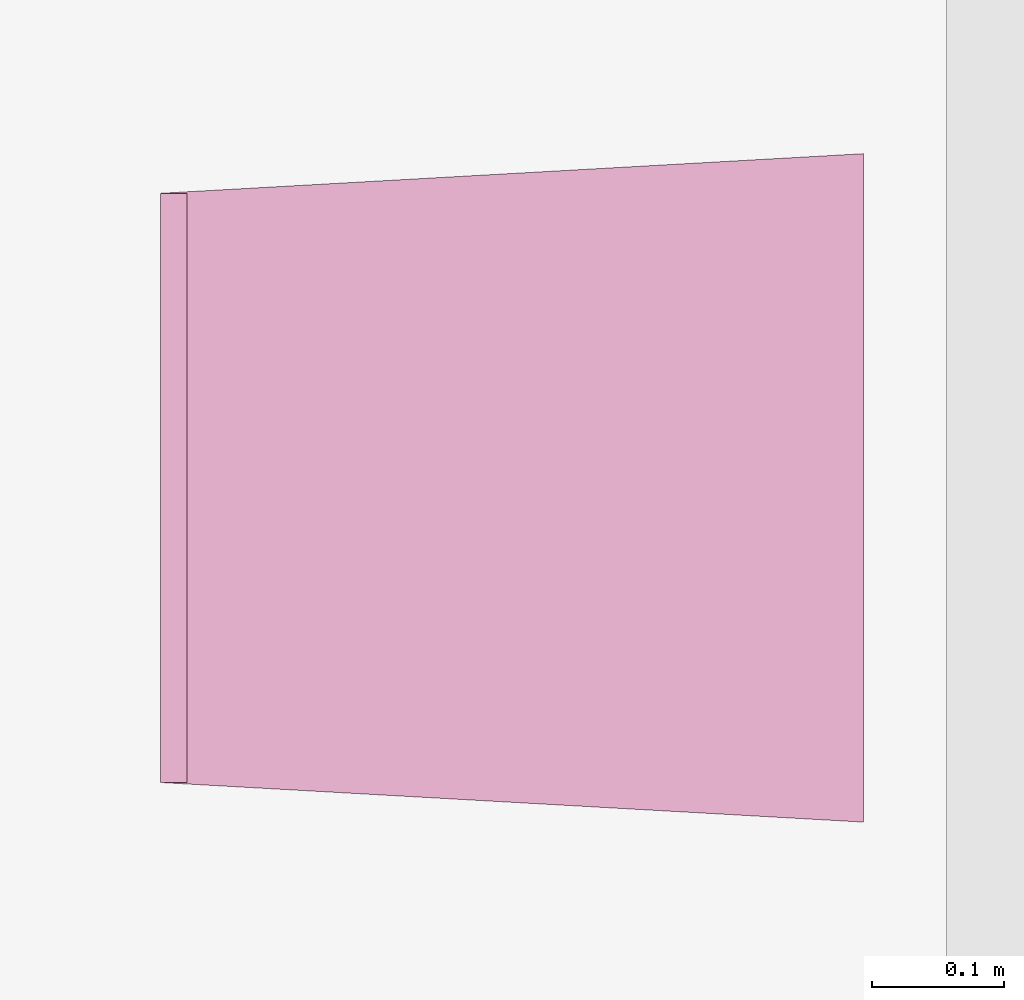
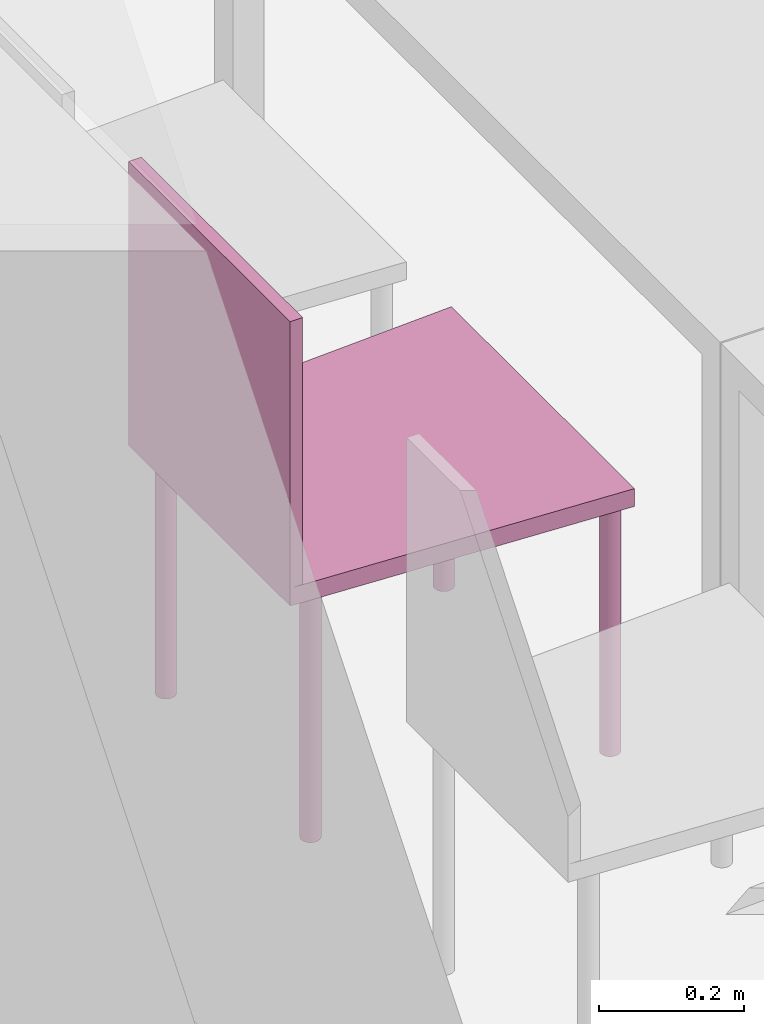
"""IFC4 building model written with IfcOpenShell, lengths in metres."""

from ifc_helpers import new_model, entity, si_unit, converted_unit, derived_unit, frame, origin, place, context, subcontext, project, spatial, faceted_brep, element, save


model = new_model("IFC4")

# Units and contexts
model_context = context("Model", 3, precision=1e-05, world=origin())
body_context = subcontext(model_context, "Body", "Model", "MODEL_VIEW")
ifc_project = project(units=[si_unit("LENGTHUNIT", "METRE"), si_unit("AREAUNIT", "SQUARE_METRE"), si_unit("VOLUMEUNIT", "CUBIC_METRE"), si_unit("MASSUNIT", "GRAM", prefix="KILO"), converted_unit("PLANEANGLEUNIT", "DEGREE", entity("IfcPlaneAngleMeasure", 0.0174532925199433), si_unit("PLANEANGLEUNIT", "RADIAN"), dimensions=[0, 0, 0, 0, 0, 0, 0]), derived_unit("THERMALTRANSMITTANCEUNIT", [(si_unit("POWERUNIT", "WATT"), 1), (si_unit("THERMODYNAMICTEMPERATUREUNIT", "KELVIN"), -1), (si_unit("LENGTHUNIT", "METRE"), -2)]), derived_unit("VOLUMETRICFLOWRATEUNIT", [(si_unit("LENGTHUNIT", "METRE"), 3), (converted_unit("TIMEUNIT", "hour", entity("IfcTimeMeasure", 3600.0), si_unit("TIMEUNIT", "SECOND"), dimensions=[0, 0, 1, 0, 0, 0, 0]), -1), (si_unit("LENGTHUNIT", "METRE"), -1)])], contexts=[model_context])

# Building, storeys
building_placement = place(None, origin())
building = spatial("IfcBuilding", under=ifc_project, at=building_placement, Name="HABITATGE PLURIFAMILIAR", CompositionType="ELEMENT")
storey_1_placement = place(building_placement, frame((0.0, 0.0, 3.35)))
storey_1 = spatial("IfcBuildingStorey", under=building, at=storey_1_placement, Name="PLANTA  ALTELL", CompositionType="ELEMENT", Elevation=3.35)
storey_2_placement = place(storey_1_placement, origin())
storey_2 = spatial("IfcBuildingStorey", under=storey_1, at=storey_2_placement, Name="NOU", CompositionType="PARTIAL")

# Furniture
furniture_placement = place(storey_2_placement, frame((399.386206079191, 15.6892329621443, 0.0499839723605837)))
element("IfcFurniture", 1, at=furniture_placement, inside=storey_2, Name="Cadira confident_PA", context=body_context, shape_type="Brep", body=[
    faceted_brep([(0.507575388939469, 0.0391636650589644, 0.0), (0.504980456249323, 0.0389479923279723, 0.0), (0.502462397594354, 0.0382849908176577, 0.0), (0.500097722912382, 0.0371948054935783, 0.0), (0.497958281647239, 0.0357105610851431, 0.0), (0.496109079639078, 0.0338773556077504, 0.0), (0.494606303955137, 0.0317508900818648, 0.0), (0.493495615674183, 0.0293957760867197, 0.0), (0.492810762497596, 0.0268835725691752, 0.0), (0.492572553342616, 0.0242906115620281, 0.0), (0.492788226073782, 0.0216956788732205, 0.0), (0.493451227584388, 0.019177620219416, 0.0), (0.494541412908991, 0.0168129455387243, 0.0), (0.496025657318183, 0.0146735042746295, 0.0), (0.497858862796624, 0.0128243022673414, 0.0), (0.499985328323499, 0.0113215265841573, 0.0), (0.502340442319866, 0.0102108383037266, 0.0), (0.504852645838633, 0.00952598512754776, 0.0), (0.507445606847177, 0.00928777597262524, 0.0), (0.510040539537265, 0.00950344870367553, 0.0), (0.512558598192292, 0.010166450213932, 0.0), (0.514923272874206, 0.0112566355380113, 0.0), (0.517062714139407, 0.0127408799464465, 0.0), (0.518911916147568, 0.0145740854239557, 0.0), (0.520414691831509, 0.0167005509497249, 0.0), (0.521525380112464, 0.0190556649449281, 0.0), (0.52221023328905, 0.0215678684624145, 0.0), (0.522448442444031, 0.0241608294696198, 0.0), (0.522232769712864, 0.0267557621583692, 0.0), (0.521569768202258, 0.0292738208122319, 0.0), (0.520479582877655, 0.0316384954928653, 0.0), (0.518995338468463, 0.0337779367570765, 0.0), (0.517162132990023, 0.0356271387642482, 0.0), (0.515035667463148, 0.0371299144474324, 0.0), (0.51268055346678, 0.038240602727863, 0.0), (0.510168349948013, 0.0389254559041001, 0.0), (0.507575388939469, 0.0391636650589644, 0.448281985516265), (0.510168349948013, 0.0389254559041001, 0.448281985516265), (0.51268055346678, 0.038240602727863, 0.448281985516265), (0.515035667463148, 0.0371299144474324, 0.448281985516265), (0.517162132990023, 0.0356271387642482, 0.448281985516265), (0.518995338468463, 0.0337779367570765, 0.448281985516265), (0.520479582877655, 0.0316384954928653, 0.448281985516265), (0.521569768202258, 0.0292738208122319, 0.448281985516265), (0.522232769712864, 0.0267557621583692, 0.448281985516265), (0.522448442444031, 0.0241608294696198, 0.448281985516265), (0.52221023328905, 0.0215678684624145, 0.448281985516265), (0.521525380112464, 0.0190556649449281, 0.448281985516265), (0.520414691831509, 0.0167005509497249, 0.448281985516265), (0.518911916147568, 0.0145740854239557, 0.448281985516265), (0.517062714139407, 0.0127408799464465, 0.448281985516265), (0.514923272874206, 0.0112566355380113, 0.448281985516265), (0.512558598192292, 0.010166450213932, 0.448281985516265), (0.510040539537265, 0.00950344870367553, 0.448281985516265), (0.507445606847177, 0.00928777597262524, 0.448281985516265), (0.504852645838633, 0.00952598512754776, 0.448281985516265), (0.502340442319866, 0.0102108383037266, 0.448281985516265), (0.499985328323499, 0.0113215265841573, 0.448281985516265), (0.497858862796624, 0.0128243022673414, 0.448281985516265), (0.496025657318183, 0.0146735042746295, 0.448281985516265), (0.494541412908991, 0.0168129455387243, 0.448281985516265), (0.493451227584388, 0.019177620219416, 0.448281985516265), (0.492788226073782, 0.0216956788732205, 0.448281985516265), (0.492572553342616, 0.0242906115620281, 0.448281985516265), (0.492810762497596, 0.0268835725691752, 0.448281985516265), (0.493495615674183, 0.0293957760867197, 0.448281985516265), (0.494606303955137, 0.0317508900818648, 0.448281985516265), (0.496109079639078, 0.0338773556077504, 0.448281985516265), (0.497958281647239, 0.0357105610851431, 0.448281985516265), (0.500097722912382, 0.0371948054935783, 0.448281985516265), (0.502462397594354, 0.0382849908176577, 0.448281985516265), (0.504980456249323, 0.0389479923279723, 0.448281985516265)], [[[0, 1, 2, 3, 4, 5, 6, 7, 8, 9, 10, 11, 12, 13, 14, 15, 16, 17, 18, 19, 20, 21, 22, 23, 24, 25, 26, 27, 28, 29, 30, 31, 32, 33, 34, 35]], [[36, 37, 38, 39, 40, 41, 42, 43, 44, 45, 46, 47, 48, 49, 50, 51, 52, 53, 54, 55, 56, 57, 58, 59, 60, 61, 62, 63, 64, 65, 66, 67, 68, 69, 70, 71]], [[1, 0, 36, 71]], [[2, 1, 71, 70]], [[3, 2, 70, 69]], [[4, 3, 69, 68]], [[5, 4, 68, 67]], [[6, 5, 67, 66]], [[7, 6, 66, 65]], [[8, 7, 65, 64]], [[9, 8, 64, 63]], [[10, 9, 63, 62]], [[11, 10, 62, 61]], [[12, 11, 61, 60]], [[13, 12, 60, 59]], [[14, 13, 59, 58]], [[15, 14, 58, 57]], [[16, 15, 57, 56]], [[17, 16, 56, 55]], [[18, 17, 55, 54]], [[19, 18, 54, 53]], [[20, 19, 53, 52]], [[21, 20, 52, 51]], [[22, 21, 51, 50]], [[23, 22, 50, 49]], [[24, 23, 49, 48]], [[25, 24, 48, 47]], [[26, 25, 47, 46]], [[27, 26, 46, 45]], [[28, 27, 45, 44]], [[29, 28, 44, 43]], [[30, 29, 43, 42]], [[31, 30, 42, 41]], [[32, 31, 41, 40]], [[33, 32, 40, 39]], [[34, 33, 39, 38]], [[35, 34, 38, 37]], [[0, 35, 37, 36]]], orient=[[False], [False], [False], [False], [False], [False], [False], [False], [False], [False], [False], [False], [False], [False], [False], [False], [False], [False], [False], [False], [False], [False], [False], [False], [False], [False], [False], [False], [False], [False], [False], [False], [False], [False], [False], [False], [False], [False]]),
    faceted_brep([(0.0451683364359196, 0.0668016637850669, 0.0), (0.0425734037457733, 0.0665859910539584, 0.0), (0.0400553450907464, 0.065922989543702, 0.0), (0.0376906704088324, 0.0648328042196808, 0.0), (0.0355512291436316, 0.0633485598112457, 0.0), (0.0337020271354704, 0.0615153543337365, 0.0), (0.0321992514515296, 0.0593888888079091, 0.0), (0.0310885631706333, 0.057033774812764, 0.0), (0.0304037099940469, 0.0545215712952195, 0.0), (0.030165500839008, 0.0519286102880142, 0.0), (0.0303811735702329, 0.0493336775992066, 0.0), (0.0310441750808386, 0.0468156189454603, 0.0), (0.0321343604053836, 0.0444509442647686, 0.0), (0.0336186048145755, 0.0423115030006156, 0.0), (0.035451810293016, 0.0404623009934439, 0.0), (0.0375782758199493, 0.0389595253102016, 0.0), (0.0399333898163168, 0.0378488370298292, 0.0), (0.0424455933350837, 0.0371639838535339, 0.0), (0.0450385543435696, 0.0369257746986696, 0.0), (0.0476334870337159, 0.0371414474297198, 0.0), (0.0501515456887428, 0.0378044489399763, 0.0), (0.0525162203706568, 0.0388946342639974, 0.0), (0.0546556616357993, 0.0403788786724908, 0.0), (0.0565048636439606, 0.0422120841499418, 0.0), (0.0580076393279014, 0.0443385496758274, 0.0), (0.0591183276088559, 0.0466936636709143, 0.0), (0.0598031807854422, 0.0492058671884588, 0.0), (0.060041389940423, 0.0517988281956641, 0.0), (0.0598257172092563, 0.0543937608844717, 0.0), (0.0591627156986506, 0.056911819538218, 0.0), (0.0580725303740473, 0.0592764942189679, 0.0), (0.0565882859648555, 0.0614159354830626, 0.0), (0.054755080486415, 0.0632651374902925, 0.0), (0.0526286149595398, 0.0647679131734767, 0.0), (0.0502735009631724, 0.0658786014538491, 0.0), (0.0477612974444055, 0.0665634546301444, 0.0), (0.0451683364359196, 0.0668016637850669, 0.448281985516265), (0.0477612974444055, 0.0665634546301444, 0.448281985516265), (0.0502735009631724, 0.0658786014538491, 0.448281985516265), (0.0526286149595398, 0.0647679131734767, 0.448281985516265), (0.054755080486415, 0.0632651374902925, 0.448281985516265), (0.0565882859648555, 0.0614159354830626, 0.448281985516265), (0.0580725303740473, 0.0592764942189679, 0.448281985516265), (0.0591627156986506, 0.056911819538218, 0.448281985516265), (0.0598257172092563, 0.0543937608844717, 0.448281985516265), (0.060041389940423, 0.0517988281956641, 0.448281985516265), (0.0598031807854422, 0.0492058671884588, 0.448281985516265), (0.0591183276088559, 0.0466936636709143, 0.448281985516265), (0.0580076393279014, 0.0443385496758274, 0.448281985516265), (0.0565048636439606, 0.0422120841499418, 0.448281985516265), (0.0546556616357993, 0.0403788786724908, 0.448281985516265), (0.0525162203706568, 0.0388946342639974, 0.448281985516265), (0.0501515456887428, 0.0378044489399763, 0.448281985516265), (0.0476334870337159, 0.0371414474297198, 0.448281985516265), (0.0450385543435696, 0.0369257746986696, 0.448281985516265), (0.0424455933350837, 0.0371639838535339, 0.448281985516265), (0.0399333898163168, 0.0378488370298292, 0.448281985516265), (0.0375782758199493, 0.0389595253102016, 0.448281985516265), (0.035451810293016, 0.0404623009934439, 0.448281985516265), (0.0336186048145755, 0.0423115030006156, 0.448281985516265), (0.0321343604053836, 0.0444509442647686, 0.448281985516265), (0.0310441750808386, 0.0468156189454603, 0.448281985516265), (0.0303811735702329, 0.0493336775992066, 0.448281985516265), (0.030165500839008, 0.0519286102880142, 0.448281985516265), (0.0304037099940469, 0.0545215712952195, 0.448281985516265), (0.0310885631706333, 0.057033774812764, 0.448281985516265), (0.0321992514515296, 0.0593888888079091, 0.448281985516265), (0.0337020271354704, 0.0615153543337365, 0.448281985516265), (0.0355512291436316, 0.0633485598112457, 0.448281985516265), (0.0376906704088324, 0.0648328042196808, 0.448281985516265), (0.0400553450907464, 0.065922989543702, 0.448281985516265), (0.0425734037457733, 0.0665859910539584, 0.448281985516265)], [[[0, 1, 2, 3, 4, 5, 6, 7, 8, 9, 10, 11, 12, 13, 14, 15, 16, 17, 18, 19, 20, 21, 22, 23, 24, 25, 26, 27, 28, 29, 30, 31, 32, 33, 34, 35]], [[36, 37, 38, 39, 40, 41, 42, 43, 44, 45, 46, 47, 48, 49, 50, 51, 52, 53, 54, 55, 56, 57, 58, 59, 60, 61, 62, 63, 64, 65, 66, 67, 68, 69, 70, 71]], [[1, 0, 36, 71]], [[2, 1, 71, 70]], [[3, 2, 70, 69]], [[4, 3, 69, 68]], [[5, 4, 68, 67]], [[6, 5, 67, 66]], [[7, 6, 66, 65]], [[8, 7, 65, 64]], [[9, 8, 64, 63]], [[10, 9, 63, 62]], [[11, 10, 62, 61]], [[12, 11, 61, 60]], [[13, 12, 60, 59]], [[14, 13, 59, 58]], [[15, 14, 58, 57]], [[16, 15, 57, 56]], [[17, 16, 56, 55]], [[18, 17, 55, 54]], [[19, 18, 54, 53]], [[20, 19, 53, 52]], [[21, 20, 52, 51]], [[22, 21, 51, 50]], [[23, 22, 50, 49]], [[24, 23, 49, 48]], [[25, 24, 48, 47]], [[26, 25, 47, 46]], [[27, 26, 46, 45]], [[28, 27, 45, 44]], [[29, 28, 44, 43]], [[30, 29, 43, 42]], [[31, 30, 42, 41]], [[32, 31, 41, 40]], [[33, 32, 40, 39]], [[34, 33, 39, 38]], [[35, 34, 38, 37]], [[0, 35, 37, 36]]], orient=[[False], [False], [False], [False], [False], [False], [False], [False], [False], [False], [False], [False], [False], [False], [False], [False], [False], [False], [False], [False], [False], [False], [False], [False], [False], [False], [False], [False], [False], [False], [False], [False], [False], [False], [False], [False], [False], [False]]),
    faceted_brep([(0.50757538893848, 0.499163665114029, 0.0), (0.504980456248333, 0.49894799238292, 0.0), (0.502462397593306, 0.498284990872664, 0.0), (0.500097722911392, 0.497194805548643, 0.0), (0.49795828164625, 0.495710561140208, 0.0), (0.49610907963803, 0.493877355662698, 0.0), (0.494606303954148, 0.491750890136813, 0.0), (0.493495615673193, 0.489395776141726, 0.0), (0.492810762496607, 0.486883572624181, 0.0), (0.492572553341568, 0.484290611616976, 0.0), (0.492788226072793, 0.481695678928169, 0.0), (0.493451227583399, 0.479177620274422, 0.0), (0.494541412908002, 0.476812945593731, 0.0), (0.496025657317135, 0.474673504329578, 0.0), (0.497858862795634, 0.472824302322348, 0.0), (0.499985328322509, 0.471321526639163, 0.0), (0.502340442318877, 0.470210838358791, 0.0), (0.504852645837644, 0.469525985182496, 0.0), (0.507445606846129, 0.469287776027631, 0.0), (0.510040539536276, 0.469503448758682, 0.0), (0.512558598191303, 0.470166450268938, 0.0), (0.514923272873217, 0.471256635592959, 0.0), (0.517062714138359, 0.472740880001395, 0.0), (0.518911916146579, 0.474574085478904, 0.0), (0.520414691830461, 0.476700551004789, 0.0), (0.521525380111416, 0.479055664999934, 0.0), (0.522210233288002, 0.481567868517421, 0.0), (0.522448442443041, 0.484160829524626, 0.0), (0.522232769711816, 0.486755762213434, 0.0), (0.521569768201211, 0.489273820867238, 0.0), (0.520479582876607, 0.491638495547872, 0.0), (0.518995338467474, 0.493777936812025, 0.0), (0.517162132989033, 0.495627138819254, 0.0), (0.5150356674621, 0.497129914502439, 0.0), (0.512680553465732, 0.498240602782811, 0.0), (0.510168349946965, 0.498925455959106, 0.0), (0.50757538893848, 0.499163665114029, 0.448281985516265), (0.510168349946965, 0.498925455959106, 0.448281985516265), (0.512680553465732, 0.498240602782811, 0.448281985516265), (0.5150356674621, 0.497129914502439, 0.448281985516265), (0.517162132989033, 0.495627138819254, 0.448281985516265), (0.518995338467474, 0.493777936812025, 0.448281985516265), (0.520479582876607, 0.491638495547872, 0.448281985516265), (0.521569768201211, 0.489273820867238, 0.448281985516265), (0.522232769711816, 0.486755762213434, 0.448281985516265), (0.522448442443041, 0.484160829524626, 0.448281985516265), (0.522210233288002, 0.481567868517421, 0.448281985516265), (0.521525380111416, 0.479055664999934, 0.448281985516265), (0.520414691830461, 0.476700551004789, 0.448281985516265), (0.518911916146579, 0.474574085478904, 0.448281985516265), (0.517062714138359, 0.472740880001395, 0.448281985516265), (0.514923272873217, 0.471256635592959, 0.448281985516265), (0.512558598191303, 0.470166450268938, 0.448281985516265), (0.510040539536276, 0.469503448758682, 0.448281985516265), (0.507445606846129, 0.469287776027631, 0.448281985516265), (0.504852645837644, 0.469525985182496, 0.448281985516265), (0.502340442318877, 0.470210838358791, 0.448281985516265), (0.499985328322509, 0.471321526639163, 0.448281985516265), (0.497858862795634, 0.472824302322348, 0.448281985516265), (0.496025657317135, 0.474673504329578, 0.448281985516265), (0.494541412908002, 0.476812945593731, 0.448281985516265), (0.493451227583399, 0.479177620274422, 0.448281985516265), (0.492788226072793, 0.481695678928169, 0.448281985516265), (0.492572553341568, 0.484290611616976, 0.448281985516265), (0.492810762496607, 0.486883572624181, 0.448281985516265), (0.493495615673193, 0.489395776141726, 0.448281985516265), (0.494606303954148, 0.491750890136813, 0.448281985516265), (0.49610907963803, 0.493877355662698, 0.448281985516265), (0.49795828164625, 0.495710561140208, 0.448281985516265), (0.500097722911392, 0.497194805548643, 0.448281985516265), (0.502462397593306, 0.498284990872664, 0.448281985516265), (0.504980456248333, 0.49894799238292, 0.448281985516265)], [[[0, 1, 2, 3, 4, 5, 6, 7, 8, 9, 10, 11, 12, 13, 14, 15, 16, 17, 18, 19, 20, 21, 22, 23, 24, 25, 26, 27, 28, 29, 30, 31, 32, 33, 34, 35]], [[36, 37, 38, 39, 40, 41, 42, 43, 44, 45, 46, 47, 48, 49, 50, 51, 52, 53, 54, 55, 56, 57, 58, 59, 60, 61, 62, 63, 64, 65, 66, 67, 68, 69, 70, 71]], [[1, 0, 36, 71]], [[2, 1, 71, 70]], [[3, 2, 70, 69]], [[4, 3, 69, 68]], [[5, 4, 68, 67]], [[6, 5, 67, 66]], [[7, 6, 66, 65]], [[8, 7, 65, 64]], [[9, 8, 64, 63]], [[10, 9, 63, 62]], [[11, 10, 62, 61]], [[12, 11, 61, 60]], [[13, 12, 60, 59]], [[14, 13, 59, 58]], [[15, 14, 58, 57]], [[16, 15, 57, 56]], [[17, 16, 56, 55]], [[18, 17, 55, 54]], [[19, 18, 54, 53]], [[20, 19, 53, 52]], [[21, 20, 52, 51]], [[22, 21, 51, 50]], [[23, 22, 50, 49]], [[24, 23, 49, 48]], [[25, 24, 48, 47]], [[26, 25, 47, 46]], [[27, 26, 46, 45]], [[28, 27, 45, 44]], [[29, 28, 44, 43]], [[30, 29, 43, 42]], [[31, 30, 42, 41]], [[32, 31, 41, 40]], [[33, 32, 40, 39]], [[34, 33, 39, 38]], [[35, 34, 38, 37]], [[0, 35, 37, 36]]], orient=[[False], [False], [False], [False], [False], [False], [False], [False], [False], [False], [False], [False], [False], [False], [False], [False], [False], [False], [False], [False], [False], [False], [False], [False], [False], [False], [False], [False], [False], [False], [False], [False], [False], [False], [False], [False], [False], [False]]),
    faceted_brep([(0.0451683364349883, 0.466801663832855, 0.0), (0.0425734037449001, 0.466585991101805, 0.0), (0.0400553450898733, 0.465922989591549, 0.0), (0.0376906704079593, 0.464832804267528, 0.0), (0.0355512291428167, 0.463348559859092, 0.0), (0.0337020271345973, 0.461515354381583, 0.0), (0.0321992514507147, 0.459388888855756, 0.0), (0.0310885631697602, 0.457033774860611, 0.0), (0.0304037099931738, 0.454521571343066, 0.0), (0.0301655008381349, 0.451928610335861, 0.0), (0.0303811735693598, 0.449333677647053, 0.0), (0.0310441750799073, 0.446815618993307, 0.0), (0.0321343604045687, 0.444450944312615, 0.0), (0.0336186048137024, 0.442311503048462, 0.0), (0.0354518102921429, 0.440462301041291, 0.0), (0.0375782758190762, 0.438959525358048, 0.0), (0.0399333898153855, 0.437848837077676, 0.0), (0.0424455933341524, 0.437163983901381, 0.0), (0.0450385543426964, 0.436925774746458, 0.0), (0.0476334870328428, 0.437141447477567, 0.0), (0.0501515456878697, 0.437804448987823, 0.0), (0.0525162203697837, 0.438894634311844, 0.0), (0.0546556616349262, 0.440378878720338, 0.0), (0.0565048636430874, 0.442212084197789, 0.0), (0.0580076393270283, 0.444338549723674, 0.0), (0.0591183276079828, 0.446693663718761, 0.0), (0.0598031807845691, 0.449205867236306, 0.0), (0.0600413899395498, 0.451798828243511, 0.0), (0.0598257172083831, 0.454393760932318, 0.0), (0.0591627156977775, 0.456911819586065, 0.0), (0.0580725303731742, 0.459276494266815, 0.0), (0.0565882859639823, 0.461415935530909, 0.0), (0.0547550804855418, 0.463265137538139, 0.0), (0.0526286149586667, 0.464767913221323, 0.0), (0.0502735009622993, 0.465878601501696, 0.0), (0.0477612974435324, 0.466563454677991, 0.0), (0.0451683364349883, 0.466801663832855, 0.448281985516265), (0.0477612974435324, 0.466563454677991, 0.448281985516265), (0.0502735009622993, 0.465878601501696, 0.448281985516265), (0.0526286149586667, 0.464767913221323, 0.448281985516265), (0.0547550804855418, 0.463265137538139, 0.448281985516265), (0.0565882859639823, 0.461415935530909, 0.448281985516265), (0.0580725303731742, 0.459276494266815, 0.448281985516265), (0.0591627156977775, 0.456911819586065, 0.448281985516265), (0.0598257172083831, 0.454393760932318, 0.448281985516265), (0.0600413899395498, 0.451798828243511, 0.448281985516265), (0.0598031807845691, 0.449205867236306, 0.448281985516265), (0.0591183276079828, 0.446693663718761, 0.448281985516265), (0.0580076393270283, 0.444338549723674, 0.448281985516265), (0.0565048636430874, 0.442212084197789, 0.448281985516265), (0.0546556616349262, 0.440378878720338, 0.448281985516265), (0.0525162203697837, 0.438894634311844, 0.448281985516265), (0.0501515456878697, 0.437804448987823, 0.448281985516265), (0.0476334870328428, 0.437141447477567, 0.448281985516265), (0.0450385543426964, 0.436925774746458, 0.448281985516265), (0.0424455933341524, 0.437163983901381, 0.448281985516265), (0.0399333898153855, 0.437848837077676, 0.448281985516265), (0.0375782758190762, 0.438959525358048, 0.448281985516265), (0.0354518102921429, 0.440462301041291, 0.448281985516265), (0.0336186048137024, 0.442311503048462, 0.448281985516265), (0.0321343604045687, 0.444450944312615, 0.448281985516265), (0.0310441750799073, 0.446815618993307, 0.448281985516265), (0.0303811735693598, 0.449333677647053, 0.448281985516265), (0.0301655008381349, 0.451928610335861, 0.448281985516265), (0.0304037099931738, 0.454521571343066, 0.448281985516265), (0.0310885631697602, 0.457033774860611, 0.448281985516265), (0.0321992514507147, 0.459388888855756, 0.448281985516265), (0.0337020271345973, 0.461515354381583, 0.448281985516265), (0.0355512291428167, 0.463348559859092, 0.448281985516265), (0.0376906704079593, 0.464832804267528, 0.448281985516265), (0.0400553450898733, 0.465922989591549, 0.448281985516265), (0.0425734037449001, 0.466585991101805, 0.448281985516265)], [[[0, 1, 2, 3, 4, 5, 6, 7, 8, 9, 10, 11, 12, 13, 14, 15, 16, 17, 18, 19, 20, 21, 22, 23, 24, 25, 26, 27, 28, 29, 30, 31, 32, 33, 34, 35]], [[36, 37, 38, 39, 40, 41, 42, 43, 44, 45, 46, 47, 48, 49, 50, 51, 52, 53, 54, 55, 56, 57, 58, 59, 60, 61, 62, 63, 64, 65, 66, 67, 68, 69, 70, 71]], [[1, 0, 36, 71]], [[2, 1, 71, 70]], [[3, 2, 70, 69]], [[4, 3, 69, 68]], [[5, 4, 68, 67]], [[6, 5, 67, 66]], [[7, 6, 66, 65]], [[8, 7, 65, 64]], [[9, 8, 64, 63]], [[10, 9, 63, 62]], [[11, 10, 62, 61]], [[12, 11, 61, 60]], [[13, 12, 60, 59]], [[14, 13, 59, 58]], [[15, 14, 58, 57]], [[16, 15, 57, 56]], [[17, 16, 56, 55]], [[18, 17, 55, 54]], [[19, 18, 54, 53]], [[20, 19, 53, 52]], [[21, 20, 52, 51]], [[22, 21, 51, 50]], [[23, 22, 50, 49]], [[24, 23, 49, 48]], [[25, 24, 48, 47]], [[26, 25, 47, 46]], [[27, 26, 46, 45]], [[28, 27, 45, 44]], [[29, 28, 44, 43]], [[30, 29, 43, 42]], [[31, 30, 42, 41]], [[32, 31, 41, 40]], [[33, 32, 40, 39]], [[34, 33, 39, 38]], [[35, 34, 38, 37]], [[0, 35, 37, 36]]], orient=[[False], [False], [False], [False], [False], [False], [False], [False], [False], [False], [False], [False], [False], [False], [False], [False], [False], [False], [False], [False], [False], [False], [False], [False], [False], [False], [False], [False], [False], [False], [False], [False], [False], [False], [False], [False], [False], [False]]),
    faceted_brep([(0.0, 0.476514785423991, 0.418281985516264), (0.0, 0.0300000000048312, 0.418281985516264), (0.532607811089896, 0.0, 0.418281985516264), (0.532607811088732, 0.506514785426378, 0.418281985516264), (0.532607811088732, 0.506514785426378, 0.448281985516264), (0.532607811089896, 0.0, 0.448281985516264), (0.0, 0.0300000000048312, 0.448281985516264), (0.0, 0.476514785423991, 0.448281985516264)], [[[0, 1, 2, 3]], [[4, 5, 6, 7]], [[3, 4, 7, 0]], [[2, 5, 4, 3]], [[1, 6, 5, 2]], [[0, 7, 6, 1]]], orient=[[False], [False], [False], [False], [False], [False]]),
    faceted_brep([(0.0200000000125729, 0.476514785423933, 0.448281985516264), (0.0, 0.476514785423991, 0.448281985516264), (0.0, 0.0300000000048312, 0.448281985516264), (0.0200000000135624, 0.0300000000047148, 0.448281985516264), (0.0200000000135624, 0.0300000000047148, 0.898281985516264), (0.0, 0.0300000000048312, 0.898281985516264), (0.0, 0.476514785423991, 0.898281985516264), (0.0200000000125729, 0.476514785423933, 0.898281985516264)], [[[0, 1, 2, 3]], [[4, 5, 6, 7]], [[3, 4, 7, 0]], [[2, 5, 4, 3]], [[1, 6, 5, 2]], [[0, 7, 6, 1]]], orient=[[False], [False], [False], [False], [False], [False]]),
])

save(model, "model.ifc")
